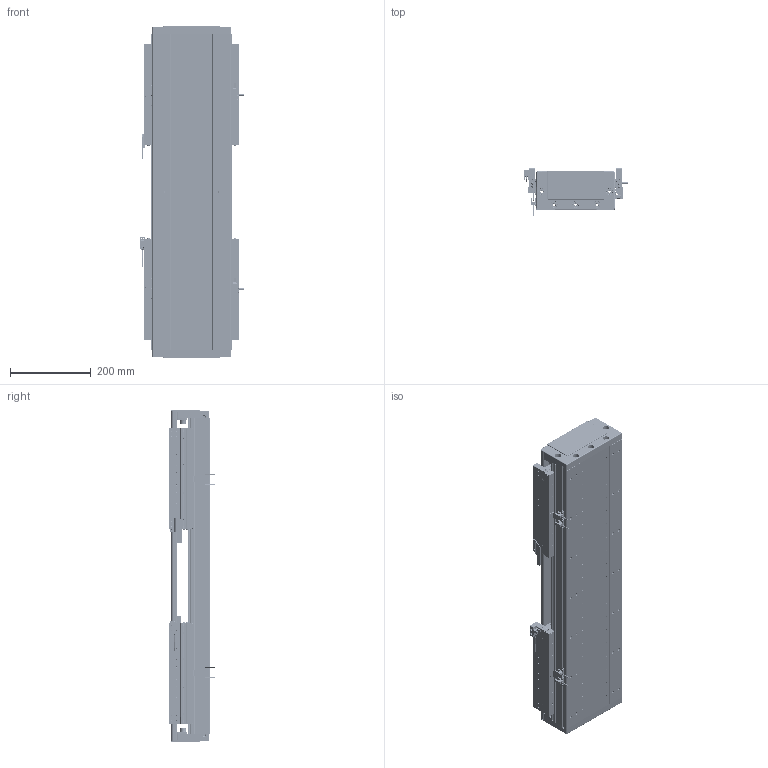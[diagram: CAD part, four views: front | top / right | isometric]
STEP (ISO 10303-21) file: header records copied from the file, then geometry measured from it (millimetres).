
FILE_DESCRIPTION (( 'STEP AP203' ), '1' );
FILE_NAME ('DA-C195-2-C3-T200-C010-0.2 眻盄萇儂.STEP', '2025-08-14T02:21:14', ( '' ), ( '' ), 'SwSTEP 2.0', 'SolidWorks 2019', '' );
FILE_SCHEMA (( 'CONFIG_CONTROL_DESIGN' ));
Length unit declared in the file: millimetre
Products named in the file (16): DKW168-HXJ-ZJ-00 笢潔滅袉砎蝶; DA-C195-2-C3-T200-C010-0.2 眻盄萇儂; CU195-C3賑輸-俋楷; MS200 棠掑喜S315-T240; DKW-GYP-ZJ-00 笢潔嫖萇覜茼え; PM-T45ㄗ侂狟ㄘ; DKW-KGZ-ZJ-00 中间光电开关支架; DA95-HXJ-00 遣喳砎蝶; 66156-0001-003-00 裔啣; 葩璃 DA95-GT-T-00; LMT黍杅芛; IU-CU195-L 菁釱絳寢; DA165-GYP-00 光电感应片(默认); IU-CU195-L-00 菁釱(L780); PM-Y65嫖萇羲壽郪璃; DA195-DG-H-00  端盖（压铸镂空版）
Assembly tree (28 placements, depth 3):
  DA-C195-2-C3-T200-C010-0.2 眻盄萇儂
    IU-CU195-L 菁釱絳寢
      IU-CU195-L-00 菁釱(L780)
      葩璃 DA95-GT-T-00  x4
    LMT黍杅芛  x2
    MS200 棠掑喜S315-T240
    PM-T45ㄗ侂狟ㄘ  x4
    DA165-GYP-00 光电感应片(默认)  x2
    DA195-DG-H-00  端盖（压铸镂空版）  x2
    DA95-HXJ-00 遣喳砎蝶  x4
    PM-Y65嫖萇羲壽郪璃
    66156-0001-003-00 裔啣
    DKW168-HXJ-ZJ-00 笢潔滅袉砎蝶
    DKW-GYP-ZJ-00 笢潔嫖萇覜茼え
    DKW-KGZ-ZJ-00 中间光电开关支架
    CU195-C3賑輸-俋楷  x2
Bounding box: 258.2 x 115.6 x 820 mm (x, y, z)
Volume: 8179432.1 mm3; surface area: 2188303.3 mm2
Topology: 146 solids, 218 shells, 7612 faces, 19048 edges, 11559 vertices
Faces by surface type: cylinder 3048, plane 2780, cone 914, bspline 718, torus 80, sphere 72
Entity records: 147061 total; most frequent: CARTESIAN_POINT 44190, ORIENTED_EDGE 21282, DIRECTION 20536, EDGE_CURVE 10641, AXIS2_PLACEMENT_3D 7467, VERTEX_POINT 6712, VECTOR 5602, LINE 5602
